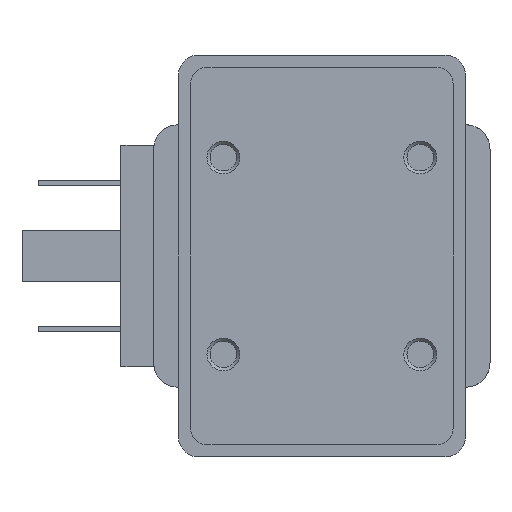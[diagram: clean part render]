
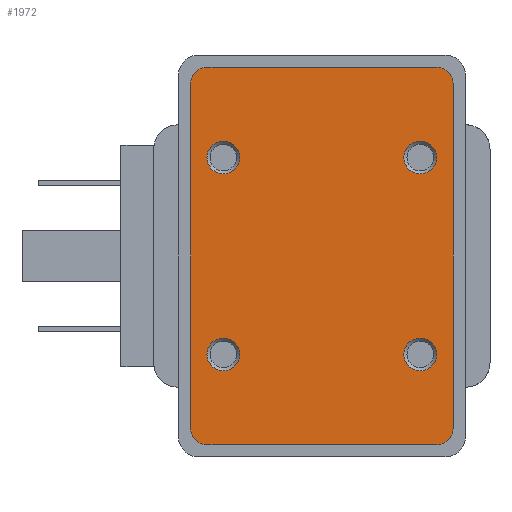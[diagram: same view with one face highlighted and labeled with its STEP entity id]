
A CAD part, front view. The second image highlights one B-rep face of the part: STEP entity #1972.
In plain terms, the highlighted planar face has unit normal (0, -1, 0).
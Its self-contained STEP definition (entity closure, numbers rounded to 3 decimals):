
#176=LINE('',#2844,#301);
#179=LINE('',#2854,#304);
#182=LINE('',#2862,#307);
#185=LINE('',#2872,#310);
#301=VECTOR('',#2433,1000.);
#304=VECTOR('',#2444,1000.);
#307=VECTOR('',#2453,1000.);
#310=VECTOR('',#2464,1000.);
#621=ORIENTED_EDGE('',*,*,#827,.F.);
#622=ORIENTED_EDGE('',*,*,#828,.F.);
#623=ORIENTED_EDGE('',*,*,#829,.F.);
#624=ORIENTED_EDGE('',*,*,#830,.F.);
#625=ORIENTED_EDGE('',*,*,#810,.F.);
#626=ORIENTED_EDGE('',*,*,#826,.F.);
#627=ORIENTED_EDGE('',*,*,#823,.F.);
#628=ORIENTED_EDGE('',*,*,#821,.F.);
#629=ORIENTED_EDGE('',*,*,#819,.F.);
#630=ORIENTED_EDGE('',*,*,#817,.F.);
#631=ORIENTED_EDGE('',*,*,#814,.F.);
#632=ORIENTED_EDGE('',*,*,#812,.F.);
#810=EDGE_CURVE('',#940,#941,#989,.T.);
#812=EDGE_CURVE('',#941,#942,#176,.T.);
#814=EDGE_CURVE('',#942,#943,#990,.T.);
#817=EDGE_CURVE('',#943,#945,#179,.T.);
#819=EDGE_CURVE('',#945,#946,#992,.T.);
#821=EDGE_CURVE('',#946,#947,#182,.T.);
#823=EDGE_CURVE('',#947,#948,#993,.T.);
#826=EDGE_CURVE('',#948,#940,#185,.T.);
#827=EDGE_CURVE('',#950,#950,#995,.T.);
#828=EDGE_CURVE('',#951,#951,#996,.T.);
#829=EDGE_CURVE('',#952,#952,#997,.T.);
#830=EDGE_CURVE('',#953,#953,#998,.T.);
#940=VERTEX_POINT('',#2839);
#941=VERTEX_POINT('',#2841);
#942=VERTEX_POINT('',#2845);
#943=VERTEX_POINT('',#2849);
#945=VERTEX_POINT('',#2855);
#946=VERTEX_POINT('',#2859);
#947=VERTEX_POINT('',#2863);
#948=VERTEX_POINT('',#2867);
#950=VERTEX_POINT('',#2875);
#951=VERTEX_POINT('',#2877);
#952=VERTEX_POINT('',#2879);
#953=VERTEX_POINT('',#2881);
#989=CIRCLE('',#2085,2.);
#990=CIRCLE('',#2088,2.);
#992=CIRCLE('',#2092,2.);
#993=CIRCLE('',#2095,2.);
#995=CIRCLE('',#2099,2.);
#996=CIRCLE('',#2100,2.);
#997=CIRCLE('',#2101,2.);
#998=CIRCLE('',#2102,2.);
#1091=EDGE_LOOP('',(#621));
#1092=EDGE_LOOP('',(#622));
#1093=EDGE_LOOP('',(#623));
#1094=EDGE_LOOP('',(#624));
#1095=EDGE_LOOP('',(#625,#626,#627,#628,#629,#630,#631,#632));
#1208=FACE_BOUND('',#1091,.T.);
#1209=FACE_BOUND('',#1092,.T.);
#1210=FACE_BOUND('',#1093,.T.);
#1211=FACE_BOUND('',#1094,.T.);
#1212=FACE_BOUND('',#1095,.T.);
#1295=PLANE('',#2098);
#1972=ADVANCED_FACE('',(#1208,#1209,#1210,#1211,#1212),#1295,.F.);
#2085=AXIS2_PLACEMENT_3D('',#2840,#2428,#2429);
#2088=AXIS2_PLACEMENT_3D('',#2848,#2437,#2438);
#2092=AXIS2_PLACEMENT_3D('',#2858,#2448,#2449);
#2095=AXIS2_PLACEMENT_3D('',#2866,#2457,#2458);
#2098=AXIS2_PLACEMENT_3D('',#2873,#2465,#2466);
#2099=AXIS2_PLACEMENT_3D('',#2874,#2467,#2468);
#2100=AXIS2_PLACEMENT_3D('',#2876,#2469,#2470);
#2101=AXIS2_PLACEMENT_3D('',#2878,#2471,#2472);
#2102=AXIS2_PLACEMENT_3D('',#2880,#2473,#2474);
#2428=DIRECTION('',(0.,1.,0.));
#2429=DIRECTION('',(1.,0.,0.));
#2433=DIRECTION('',(0.,0.,1.));
#2437=DIRECTION('',(0.,1.,0.));
#2438=DIRECTION('',(1.,0.,0.));
#2444=DIRECTION('',(1.,0.,0.));
#2448=DIRECTION('',(0.,1.,0.));
#2449=DIRECTION('',(1.,0.,0.));
#2453=DIRECTION('',(0.,0.,-1.));
#2457=DIRECTION('',(0.,1.,0.));
#2458=DIRECTION('',(1.,0.,0.));
#2464=DIRECTION('',(-1.,0.,0.));
#2465=DIRECTION('',(0.,1.,0.));
#2466=DIRECTION('',(0.,0.,1.));
#2467=DIRECTION('',(0.,-1.,0.));
#2468=DIRECTION('',(0.,0.,-1.));
#2469=DIRECTION('',(0.,-1.,0.));
#2470=DIRECTION('',(0.,0.,-1.));
#2471=DIRECTION('',(0.,-1.,0.));
#2472=DIRECTION('',(0.,0.,-1.));
#2473=DIRECTION('',(0.,-1.,0.));
#2474=DIRECTION('',(0.,0.,-1.));
#2839=CARTESIAN_POINT('',(6.5,-26.8,-39.));
#2840=CARTESIAN_POINT('',(6.5,-26.8,-37.));
#2841=CARTESIAN_POINT('',(4.5,-26.8,-37.));
#2844=CARTESIAN_POINT('',(4.5,-26.8,-37.));
#2845=CARTESIAN_POINT('',(4.5,-26.8,5.));
#2848=CARTESIAN_POINT('',(6.5,-26.8,5.));
#2849=CARTESIAN_POINT('',(6.5,-26.8,7.));
#2854=CARTESIAN_POINT('',(6.5,-26.8,7.));
#2855=CARTESIAN_POINT('',(34.5,-26.8,7.));
#2858=CARTESIAN_POINT('',(34.5,-26.8,5.));
#2859=CARTESIAN_POINT('',(36.5,-26.8,5.));
#2862=CARTESIAN_POINT('',(36.5,-26.8,5.));
#2863=CARTESIAN_POINT('',(36.5,-26.8,-37.));
#2866=CARTESIAN_POINT('',(34.5,-26.8,-37.));
#2867=CARTESIAN_POINT('',(34.5,-26.8,-39.));
#2872=CARTESIAN_POINT('',(34.5,-26.8,-39.));
#2873=CARTESIAN_POINT('',(6.5,-26.8,-37.));
#2874=CARTESIAN_POINT('',(8.5,-26.8,-28.));
#2875=CARTESIAN_POINT('',(8.5,-26.8,-30.));
#2876=CARTESIAN_POINT('',(32.5,-26.8,-4.));
#2877=CARTESIAN_POINT('',(32.5,-26.8,-6.));
#2878=CARTESIAN_POINT('',(32.5,-26.8,-28.));
#2879=CARTESIAN_POINT('',(32.5,-26.8,-30.));
#2880=CARTESIAN_POINT('',(8.5,-26.8,-4.));
#2881=CARTESIAN_POINT('',(8.5,-26.8,-6.));
